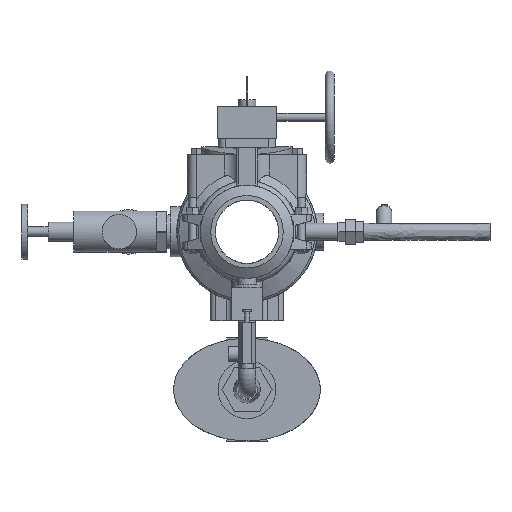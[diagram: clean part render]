
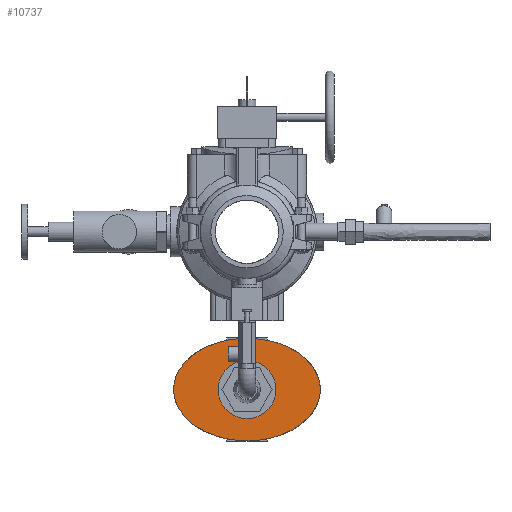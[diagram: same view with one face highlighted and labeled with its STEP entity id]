
A CAD part, front view. The second image highlights one B-rep face of the part: STEP entity #10737.
In plain terms, the highlighted planar face has unit normal (0, -1, 0).
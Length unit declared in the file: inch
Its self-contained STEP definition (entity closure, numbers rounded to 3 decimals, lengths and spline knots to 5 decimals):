
#72=ELLIPSE('',#11627,3.54331,2.48031);
#162=FACE_BOUND('',#1839,.T.);
#723=CIRCLE('',#11628,1.4);
#1220=FACE_OUTER_BOUND('',#1838,.T.);
#1838=EDGE_LOOP('',(#7604));
#1839=EDGE_LOOP('',(#7605));
#4379=VERTEX_POINT('',#17083);
#4380=VERTEX_POINT('',#17085);
#5570=EDGE_CURVE('',#4379,#4379,#72,.T.);
#5571=EDGE_CURVE('',#4380,#4380,#723,.T.);
#7604=ORIENTED_EDGE('',*,*,#5570,.T.);
#7605=ORIENTED_EDGE('',*,*,#5571,.T.);
#9742=PLANE('',#11626);
#10737=ADVANCED_FACE('',(#1220,#162),#9742,.F.);
#11626=AXIS2_PLACEMENT_3D('',#17082,#13379,#13380);
#11627=AXIS2_PLACEMENT_3D('',#17084,#13381,#13382);
#11628=AXIS2_PLACEMENT_3D('',#17086,#13383,#13384);
#13379=DIRECTION('center_axis',(0.,1.,0.));
#13380=DIRECTION('ref_axis',(0.,0.,1.));
#13381=DIRECTION('center_axis',(0.,-1.,0.));
#13382=DIRECTION('ref_axis',(-1.,0.,0.));
#13383=DIRECTION('center_axis',(0.,1.,0.));
#13384=DIRECTION('ref_axis',(-1.,0.,0.));
#17082=CARTESIAN_POINT('Origin',(0.,1.67,-7.63));
#17083=CARTESIAN_POINT('',(3.54331,1.67,-7.63));
#17084=CARTESIAN_POINT('Origin',(0.,1.67,-7.63));
#17085=CARTESIAN_POINT('',(1.4,1.67,-7.63));
#17086=CARTESIAN_POINT('Origin',(0.,1.67,-7.63));
